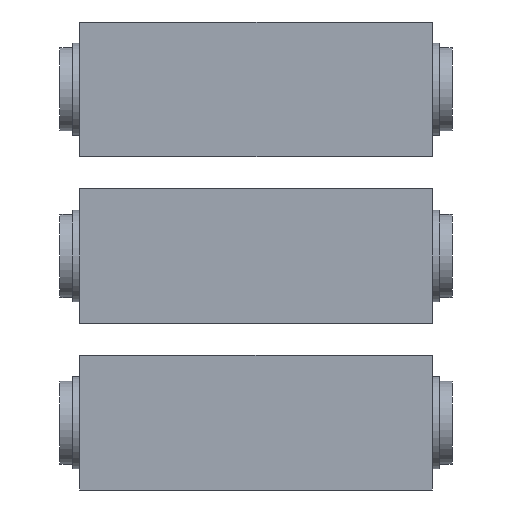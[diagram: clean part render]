
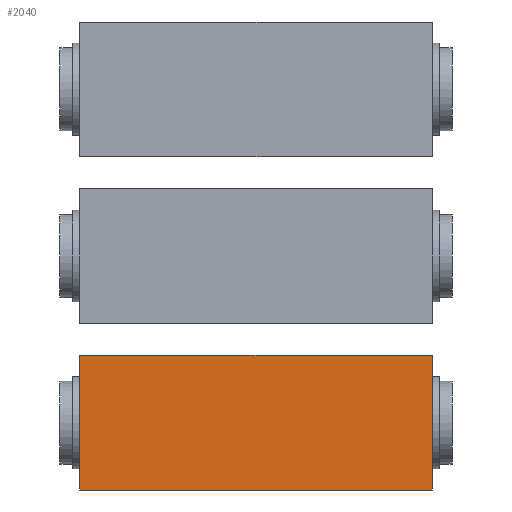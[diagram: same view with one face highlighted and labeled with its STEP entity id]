
A CAD part, front view. The second image highlights one B-rep face of the part: STEP entity #2040.
In plain terms, the highlighted planar face has unit normal (0, -1, 0).
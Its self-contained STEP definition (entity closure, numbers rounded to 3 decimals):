
#2040=ADVANCED_FACE('', (#2050), #2060, .T.);
#12760=AXIS2_PLACEMENT_3D('Ax2Pl3d', #12770, #12780, #12790);
#28770=CARTESIAN_POINT('', (110.,0.,0.));
#28820=CARTESIAN_POINT('', (110.,0.,42.));
#28830=CARTESIAN_POINT('', (110.,0.,42.));
#28910=CARTESIAN_POINT('', (0.,0.,42.));
#28920=CARTESIAN_POINT('', (0.,0.,0.));
#28930=CARTESIAN_POINT('', (0.,0.,42.));
#29010=CARTESIAN_POINT('', (110.,0.,42.));
#29180=CARTESIAN_POINT('', (110.,0.,0.));
#12770=CARTESIAN_POINT('HicPkt', (0.,0.,0.));
#50650=DIRECTION('', (0.,0.,1.));
#50660=DIRECTION('', (0.,0.,1.));
#50700=DIRECTION('', (1.,0.,0.));
#50720=DIRECTION('', (1.,0.,0.));
#12780=DIRECTION('Axis', (0.,-1.,
0.));
#12790=DIRECTION('RefDirection', (0.,
0.,-1.));
#52640=EDGE_CURVE('', #52550, #52620, #52650, .T.);
#52780=EDGE_CURVE('', #52790, #52800, #52810, .T.);
#52940=EDGE_CURVE('', #52800, #52620, #52950, .T.);
#53280=EDGE_CURVE('', #52790, #52550, #53290, .T.);
#62820=EDGE_LOOP('Edge_loop', (#62830,#62840,#62850,#62860));
#2050=FACE_OUTER_BOUND('Face_outer_bound', #62820, .T.);
#52650=LINE('Line', #28830, #79390);
#52810=LINE('Line', #28910, #79400);
#52950=LINE('Line', #29010, #79440);
#53290=LINE('Line', #29180, #79460);
#62830=ORIENTED_EDGE('', *, *, #53280, .T.);
#62840=ORIENTED_EDGE('', *, *, #52640, .T.);
#62850=ORIENTED_EDGE('', *, *, #52940, .F.);
#62860=ORIENTED_EDGE('', *, *, #52780, .F.);
#2060=PLANE('Plane', #12760);
#79390=VECTOR('', #50650, 42.);
#79400=VECTOR('', #50660, 42.);
#79440=VECTOR('', #50700, 110.);
#79460=VECTOR('', #50720, 110.);
#52550=VERTEX_POINT('', #28770);
#52620=VERTEX_POINT('', #28820);
#52790=VERTEX_POINT('', #28920);
#52800=VERTEX_POINT('', #28930);
